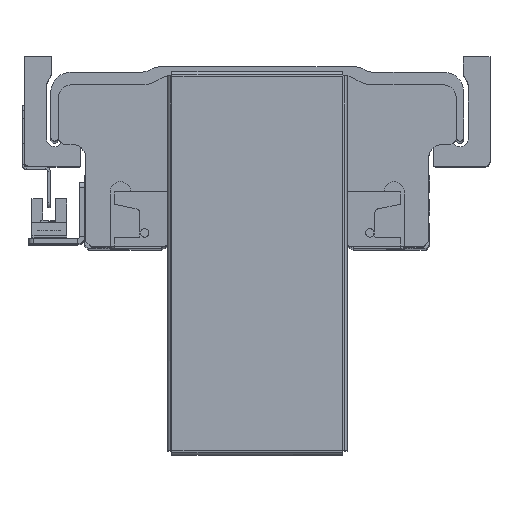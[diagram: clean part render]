
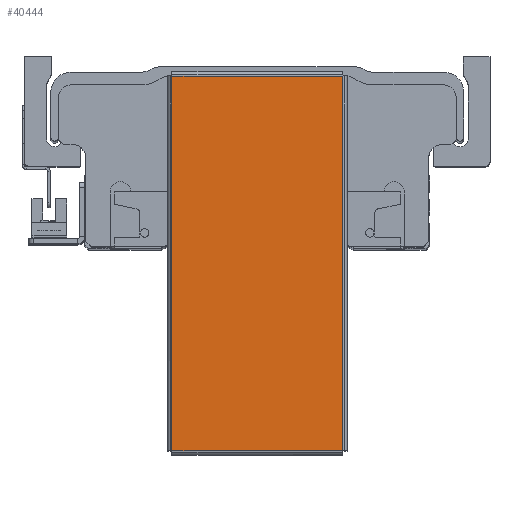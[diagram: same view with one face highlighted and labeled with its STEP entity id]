
A CAD part, top view. The second image highlights one B-rep face of the part: STEP entity #40444.
In plain terms, the highlighted planar face has unit normal (0, 0, 1) as drawn and (0, -1, 0) by its records, which use the part's own axes.
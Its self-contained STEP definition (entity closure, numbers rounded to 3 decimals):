
#1960 = CARTESIAN_POINT ( 'NONE',  ( -73.263, -1., -33.363 ) ) ;
#2351 = CARTESIAN_POINT ( 'NONE',  ( 73.263, -1., 33.363 ) ) ;
#2626 = CARTESIAN_POINT ( 'NONE',  ( -73.263, -1., 33.363 ) ) ;
#2661 = CARTESIAN_POINT ( 'NONE',  ( 73.263, -1., -33.363 ) ) ;
#4720 = CARTESIAN_POINT ( 'NONE',  ( 73.263, -1., -33.393 ) ) ;
#4725 = DIRECTION ( 'NONE',  ( 0., 0., 1. ) ) ;
#4743 = CARTESIAN_POINT ( 'NONE',  ( -73.263, -1., 33.393 ) ) ;
#4774 = DIRECTION ( 'NONE',  ( 0., 0., -1. ) ) ;
#4805 = DIRECTION ( 'NONE',  ( 1., 0., 0. ) ) ;
#4811 = CARTESIAN_POINT ( 'NONE',  ( -73.293, -1., -33.363 ) ) ;
#4822 = DIRECTION ( 'NONE',  ( -1., 0., 0. ) ) ;
#4850 = CARTESIAN_POINT ( 'NONE',  ( 73.293, -1., 33.363 ) ) ;
#4908 = VECTOR ( 'NONE', #4774, 1000. ) ;
#4936 = VECTOR ( 'NONE', #4725, 1000. ) ;
#4947 = LINE ( 'NONE', #4720, #4936 ) ;
#4958 = LINE ( 'NONE', #4743, #4908 ) ;
#4977 = LINE ( 'NONE', #4811, #5014 ) ;
#5009 = LINE ( 'NONE', #4850, #5018 ) ;
#5014 = VECTOR ( 'NONE', #4805, 1000. ) ;
#5018 = VECTOR ( 'NONE', #4822, 1000. ) ;
#15567 = ORIENTED_EDGE ( 'NONE', *, *, #24377, .T. ) ;
#15582 = ORIENTED_EDGE ( 'NONE', *, *, #24356, .T. ) ;
#15606 = ORIENTED_EDGE ( 'NONE', *, *, #24372, .T. ) ;
#15668 = ORIENTED_EDGE ( 'NONE', *, *, #24338, .T. ) ;
#19002 = EDGE_LOOP ( 'NONE', ( #15567, #15582, #15606, #15668 ) ) ;
#19838 = VERTEX_POINT ( 'NONE', #2626 ) ;
#19851 = VERTEX_POINT ( 'NONE', #2661 ) ;
#19909 = VERTEX_POINT ( 'NONE', #1960 ) ;
#19926 = VERTEX_POINT ( 'NONE', #2351 ) ;
#24338 = EDGE_CURVE ( 'NONE', #19851, #19926, #4947, .T. ) ;
#24356 = EDGE_CURVE ( 'NONE', #19838, #19909, #4958, .T. ) ;
#24372 = EDGE_CURVE ( 'NONE', #19909, #19851, #4977, .T. ) ;
#24377 = EDGE_CURVE ( 'NONE', #19926, #19838, #5009, .T. ) ;
#33312 = PLANE ( 'NONE',  #47934 ) ;
#33314 = DIRECTION ( 'NONE',  ( 0., 1., 0. ) ) ;
#33390 = DIRECTION ( 'NONE',  ( 0., 0., 1. ) ) ;
#33392 = CARTESIAN_POINT ( 'NONE',  ( 0., -1., 0. ) ) ;
#35018 = FACE_OUTER_BOUND ( 'NONE', #19002, .T. ) ;
#40444 = ADVANCED_FACE ( 'NONE', ( #35018 ), #33312, .F. ) ;
#47934 = AXIS2_PLACEMENT_3D ( 'NONE', #33392, #33314, #33390 ) ;
